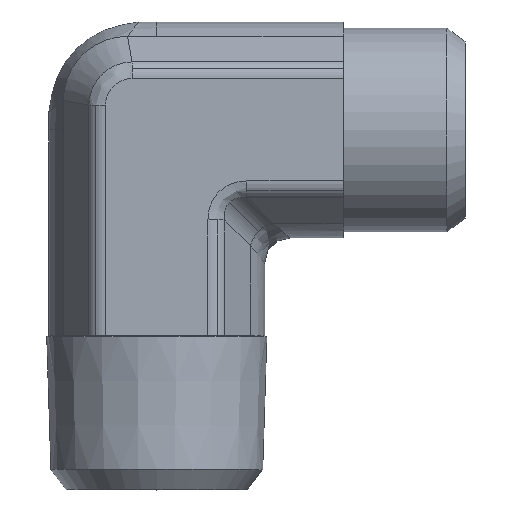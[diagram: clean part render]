
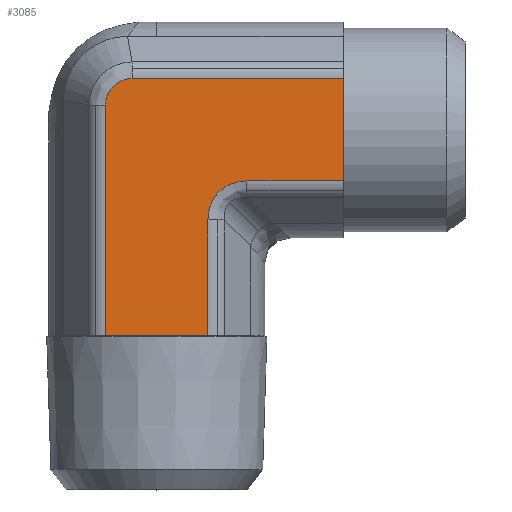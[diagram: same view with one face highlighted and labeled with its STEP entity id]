
A CAD part, top view. The second image highlights one B-rep face of the part: STEP entity #3085.
In plain terms, the highlighted planar face has unit normal (0, 0, 1) as drawn and (0, -1, 0) by its records, which use the part's own axes.
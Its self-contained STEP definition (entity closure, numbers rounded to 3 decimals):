
#319=CARTESIAN_POINT('',(2.515,-8.4,3.984));
#320=VERTEX_POINT('',#319);
#328=CARTESIAN_POINT('',(11.5,-8.4,3.984));
#329=VERTEX_POINT('',#328);
#330=CARTESIAN_POINT('',(2.515,-8.4,3.984));
#331=DIRECTION('',(1.0,0.0,0.0));
#332=VECTOR('',#331,8.985);
#333=LINE('',#330,#332);
#334=EDGE_CURVE('',#320,#329,#333,.T.);
#443=CARTESIAN_POINT('',(-8.484,-8.4,-1.926));
#444=VERTEX_POINT('',#443);
#452=CARTESIAN_POINT('',(-8.484,-8.4,14.5));
#453=VERTEX_POINT('',#452);
#454=CARTESIAN_POINT('',(-8.484,-8.4,-1.926));
#455=DIRECTION('',(0.0,0.0,1.0));
#456=VECTOR('',#455,16.426);
#457=LINE('',#454,#456);
#458=EDGE_CURVE('',#444,#453,#457,.T.);
#629=CARTESIAN_POINT('',(11.5,-8.4,0.));
#630=VERTEX_POINT('',#629);
#2038=CARTESIAN_POINT('',(-0.516,-8.4,14.5));
#2039=VERTEX_POINT('',#2038);
#2040=CARTESIAN_POINT('',(-0.516,-8.4,14.5));
#2041=DIRECTION('',(-1.0,0.0,0.0));
#2042=VECTOR('',#2041,7.967);
#2043=LINE('',#2040,#2042);
#2044=EDGE_CURVE('',#2039,#453,#2043,.T.);
#2395=CARTESIAN_POINT('',(11.5,-8.4,-3.984));
#2396=VERTEX_POINT('',#2395);
#2397=CARTESIAN_POINT('',(11.5,-8.4,-3.984));
#2398=DIRECTION('',(0.0,0.0,1.0));
#2399=VECTOR('',#2398,3.984);
#2400=LINE('',#2397,#2399);
#2401=EDGE_CURVE('',#2396,#630,#2400,.T.);
#2419=CARTESIAN_POINT('',(11.5,-8.4,0.));
#2420=DIRECTION('',(0.0,0.0,1.0));
#2421=VECTOR('',#2420,3.984);
#2422=LINE('',#2419,#2421);
#2423=EDGE_CURVE('',#630,#329,#2422,.T.);
#2770=CARTESIAN_POINT('',(-6.426,-8.4,-3.984));
#2771=VERTEX_POINT('',#2770);
#2779=CARTESIAN_POINT('',(-8.484,-8.4,-1.926));
#2780=CARTESIAN_POINT('',(-8.484,-8.4,-2.06));
#2781=CARTESIAN_POINT('',(-8.47,-8.4,-2.195));
#2782=CARTESIAN_POINT('',(-8.402,-8.4,-2.54));
#2783=CARTESIAN_POINT('',(-8.326,-8.4,-2.743));
#2784=CARTESIAN_POINT('',(-8.051,-8.4,-3.233));
#2785=CARTESIAN_POINT('',(-7.806,-8.4,-3.49));
#2786=CARTESIAN_POINT('',(-7.186,-8.4,-3.876));
#2787=CARTESIAN_POINT('',(-6.806,-8.4,-3.984));
#2788=CARTESIAN_POINT('',(-6.426,-8.4,-3.984));
#2789=B_SPLINE_CURVE_WITH_KNOTS('',3,(#2779,#2780,#2781,#2782,#2783,#2784,#2785,#2786,#2787,#2788),.UNSPECIFIED.,.F.,.U.,(4,2,2,2,4),(-3.216,-2.814,-2.171,-1.142,0.0),.UNSPECIFIED.);
#2790=EDGE_CURVE('',#2771,#444,#2789,.F.);
#2817=CARTESIAN_POINT('',(11.5,-8.4,-3.984));
#2818=DIRECTION('',(-1.0,0.0,0.0));
#2819=VECTOR('',#2818,17.926);
#2820=LINE('',#2817,#2819);
#2821=EDGE_CURVE('',#2396,#2771,#2820,.T.);
#2953=CARTESIAN_POINT('',(-0.516,-8.4,7.015));
#2954=VERTEX_POINT('',#2953);
#2955=CARTESIAN_POINT('',(-0.516,-8.4,14.5));
#2956=DIRECTION('',(0.0,0.0,-1.0));
#2957=VECTOR('',#2956,7.485);
#2958=LINE('',#2955,#2957);
#2959=EDGE_CURVE('',#2039,#2954,#2958,.T.);
#3042=CARTESIAN_POINT('',(3.525,-8.4,8.025));
#3043=DIRECTION('',(0.,-1.,0.));
#3044=DIRECTION('',(-0.707,0.,-0.707));
#3045=AXIS2_PLACEMENT_3D('',#3042,#3043,#3044);
#3046=ELLIPSE('',#3045,4.518,3.5);
#3047=EDGE_CURVE('',#2954,#320,#3046,.T.);
#3069=CARTESIAN_POINT('',(-4.5,-8.4,-3.175));
#3070=DIRECTION('',(0.0,-1.0,0.0));
#3071=DIRECTION('',(0.0,0.0,-1.0));
#3072=AXIS2_PLACEMENT_3D('',#3069,#3070,#3071);
#3073=PLANE('',#3072);
#3074=ORIENTED_EDGE('',*,*,#2044,.T.);
#3075=ORIENTED_EDGE('',*,*,#458,.F.);
#3076=ORIENTED_EDGE('',*,*,#2790,.F.);
#3077=ORIENTED_EDGE('',*,*,#2821,.F.);
#3078=ORIENTED_EDGE('',*,*,#2401,.T.);
#3079=ORIENTED_EDGE('',*,*,#2423,.T.);
#3080=ORIENTED_EDGE('',*,*,#334,.F.);
#3081=ORIENTED_EDGE('',*,*,#3047,.F.);
#3082=ORIENTED_EDGE('',*,*,#2959,.F.);
#3083=EDGE_LOOP('',(#3074,#3075,#3076,#3077,#3078,#3079,#3080,#3081,#3082));
#3084=FACE_OUTER_BOUND('',#3083,.T.);
#3085=ADVANCED_FACE('',(#3084),#3073,.T.);
